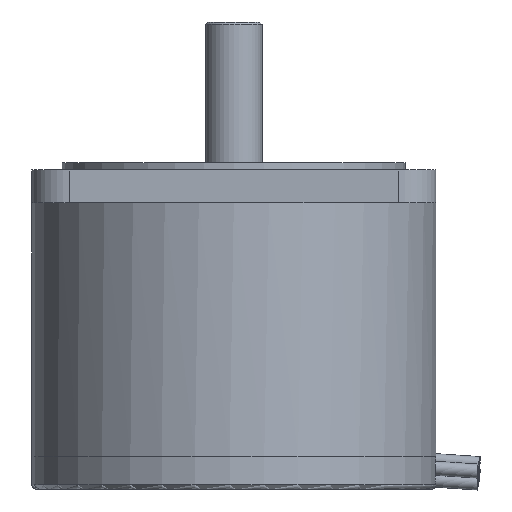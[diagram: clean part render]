
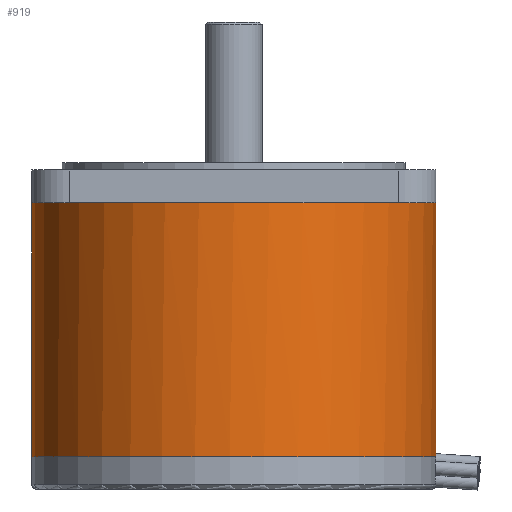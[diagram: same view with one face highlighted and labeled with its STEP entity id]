
A CAD part, front view. The second image highlights one B-rep face of the part: STEP entity #919.
In plain terms, the highlighted cylindrical face has radius 43 mm (diameter 86 mm), a full revolution.
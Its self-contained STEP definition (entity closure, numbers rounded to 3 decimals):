
#187=CARTESIAN_POINT('',(-69.773,-46.811,45.005));
#188=VERTEX_POINT('',#187);
#189=CARTESIAN_POINT('',(-26.773,-89.811,45.005));
#190=VERTEX_POINT('',#189);
#191=CARTESIAN_POINT('',(-69.773,-89.811,45.005));
#192=DIRECTION('',(0.0,0.0,-1.0));
#193=DIRECTION('',(-1.0,0.0,0.0));
#194=AXIS2_PLACEMENT_3D('',#191,#192,#193);
#195=CIRCLE('',#194,43.0);
#196=EDGE_CURVE('',#188,#190,#195,.T.);
#240=CARTESIAN_POINT('',(-112.773,-89.811,45.005));
#241=VERTEX_POINT('',#240);
#242=CARTESIAN_POINT('',(-69.773,-89.811,45.005));
#243=DIRECTION('',(0.0,0.0,-1.0));
#244=DIRECTION('',(-1.0,0.0,0.0));
#245=AXIS2_PLACEMENT_3D('',#242,#243,#244);
#246=CIRCLE('',#245,43.0);
#247=EDGE_CURVE('',#241,#188,#246,.T.);
#291=CARTESIAN_POINT('',(-69.773,-132.811,45.005));
#292=VERTEX_POINT('',#291);
#293=CARTESIAN_POINT('',(-69.773,-89.811,45.005));
#294=DIRECTION('',(0.0,0.0,-1.0));
#295=DIRECTION('',(-1.0,0.0,0.0));
#296=AXIS2_PLACEMENT_3D('',#293,#294,#295);
#297=CIRCLE('',#296,43.0);
#298=EDGE_CURVE('',#292,#241,#297,.T.);
#342=CARTESIAN_POINT('',(-69.773,-89.811,45.005));
#343=DIRECTION('',(0.0,0.0,-1.0));
#344=DIRECTION('',(-1.0,0.0,0.0));
#345=AXIS2_PLACEMENT_3D('',#342,#343,#344);
#346=CIRCLE('',#345,43.0);
#347=EDGE_CURVE('',#190,#292,#346,.T.);
#869=CARTESIAN_POINT('',(-69.773,-89.811,-8.995));
#870=DIRECTION('',(0.0,0.0,1.0));
#871=DIRECTION('',(-1.0,0.0,0.0));
#872=AXIS2_PLACEMENT_3D('',#869,#870,#871);
#873=CYLINDRICAL_SURFACE('',#872,43.0);
#874=CARTESIAN_POINT('',(-26.825,-87.704,-8.995));
#875=VERTEX_POINT('',#874);
#876=CARTESIAN_POINT('',(-26.775,-90.155,-8.995));
#877=VERTEX_POINT('',#876);
#878=CARTESIAN_POINT('',(-26.825,-87.704,-8.995));
#879=CARTESIAN_POINT('',(-26.822,-87.754,-8.925));
#880=CARTESIAN_POINT('',(-26.82,-87.81,-8.86));
#881=CARTESIAN_POINT('',(-26.811,-88.003,-8.669));
#882=CARTESIAN_POINT('',(-26.804,-88.173,-8.555));
#883=CARTESIAN_POINT('',(-26.791,-88.546,-8.404));
#884=CARTESIAN_POINT('',(-26.786,-88.748,-8.368));
#885=CARTESIAN_POINT('',(-26.778,-89.127,-8.37));
#886=CARTESIAN_POINT('',(-26.776,-89.329,-8.41));
#887=CARTESIAN_POINT('',(-26.773,-89.7,-8.565));
#888=CARTESIAN_POINT('',(-26.773,-89.87,-8.682));
#889=CARTESIAN_POINT('',(-26.774,-90.057,-8.871));
#890=CARTESIAN_POINT('',(-26.774,-90.108,-8.931));
#891=CARTESIAN_POINT('',(-26.775,-90.155,-8.995));
#892=B_SPLINE_CURVE_WITH_KNOTS('',3,(#878,#879,#880,#881,#882,#883,#884,#885,#886,#887,#888,#889,#890,#891),.UNSPECIFIED.,.F.,.U.,(4,2,2,2,2,2,4),(0.542,0.567,0.624,0.681,0.737,0.794,0.817),.UNSPECIFIED.);
#893=EDGE_CURVE('',#875,#877,#892,.T.);
#894=ORIENTED_EDGE('',*,*,#893,.F.);
#895=CARTESIAN_POINT('',(-26.811,-91.614,-8.995));
#896=VERTEX_POINT('',#895);
#897=CARTESIAN_POINT('',(-69.773,-89.811,-8.995));
#898=DIRECTION('',(0.0,0.0,1.0));
#899=DIRECTION('',(-1.0,0.0,0.0));
#900=AXIS2_PLACEMENT_3D('',#897,#898,#899);
#901=CIRCLE('',#900,43.0);
#902=EDGE_CURVE('',#875,#896,#901,.T.);
#903=ORIENTED_EDGE('',*,*,#902,.T.);
#904=CARTESIAN_POINT('',(-69.773,-89.811,-8.995));
#905=DIRECTION('',(0.0,0.0,-1.0));
#906=DIRECTION('',(-1.0,0.0,0.0));
#907=AXIS2_PLACEMENT_3D('',#904,#905,#906);
#908=CIRCLE('',#907,43.0);
#909=EDGE_CURVE('',#877,#896,#908,.T.);
#910=ORIENTED_EDGE('',*,*,#909,.F.);
#911=EDGE_LOOP('',(#894,#903,#910));
#912=FACE_OUTER_BOUND('',#911,.T.);
#913=ORIENTED_EDGE('',*,*,#347,.T.);
#914=ORIENTED_EDGE('',*,*,#298,.T.);
#915=ORIENTED_EDGE('',*,*,#247,.T.);
#916=ORIENTED_EDGE('',*,*,#196,.T.);
#917=EDGE_LOOP('',(#913,#914,#915,#916));
#918=FACE_BOUND('',#917,.T.);
#919=ADVANCED_FACE('',(#912,#918),#873,.T.);
